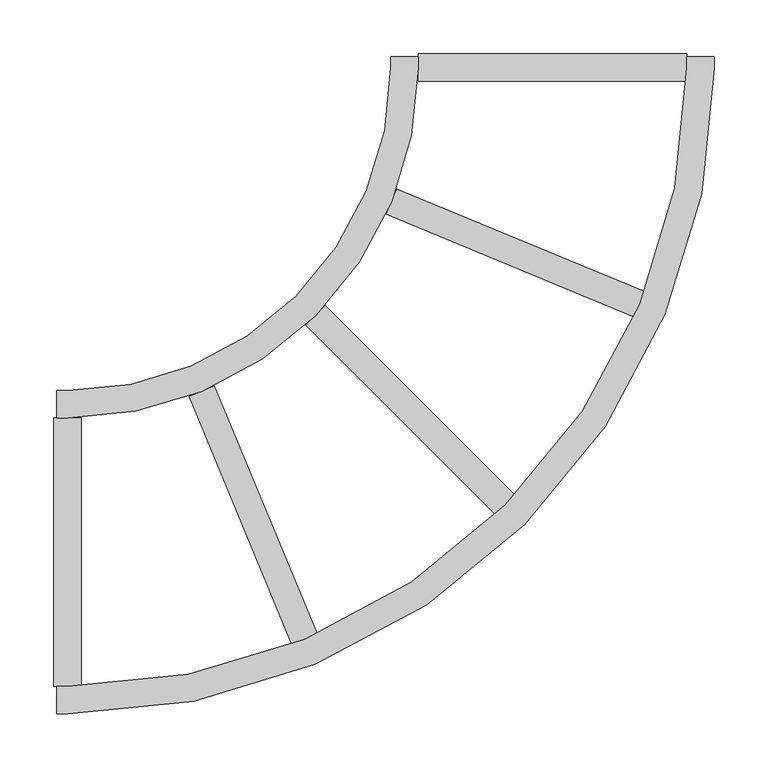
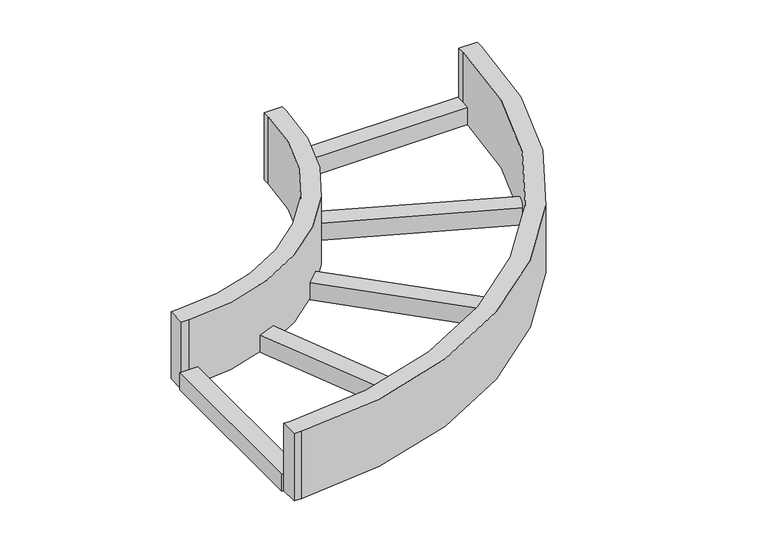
"""IFC4 building model written with IfcOpenShell, lengths in millimetres: cable carrier fitting geometry, ADSK_Поворот горизонтальный_Лестничный лоток : Радиус 300 мм."""

import ifcopenshell
import ifcopenshell.guid

model = None  # the IFC model being written
_history = None  # IfcOwnerHistory: only IFC2X3 demands one
_inside = {}  # id of a spatial element -> (the spatial element, [elements in it])
_under = {}  # id of a project, library or spatial element -> (it, [spatial elements below it])
_declared = {}  # id of a project -> (the project, [libraries it declares])
_typed = {}  # id of a type object -> (the type object, [elements of that type])
_made_of = {}  # id of a material, layer set ... -> (it, [elements and type objects made of it])


def new_model(schema):
    """Start an empty IFC model of exactly this schema.

    Asked for "IFC4X3", IfcOpenShell would pick the latest addendum, in which some entities
    have other attributes; the version numbers below select the first issue.
    IFC2X3 requires an IfcOwnerHistory on every rooted entity: one is made here for all.
    """
    global model, _history
    if schema == "IFC4X3":
        model = ifcopenshell.file(schema_version=(4, 3, 0, 0))
    else:
        model = ifcopenshell.file(schema=schema)
    _inside.clear()
    _under.clear()
    _declared.clear()
    _typed.clear()
    _made_of.clear()
    _history = None
    if model.schema == "IFC2X3":
        org = make("IfcOrganization", Name="unknown")
        user = make(
            "IfcPersonAndOrganization",
            ThePerson=make("IfcPerson", FamilyName="unknown"),
            TheOrganization=org,
        )
        app = make(
            "IfcApplication",
            ApplicationDeveloper=org,
            Version="unknown",
            ApplicationFullName="unknown",
            ApplicationIdentifier="unknown",
        )
        _history = make(
            "IfcOwnerHistory",
            OwningUser=user,
            OwningApplication=app,
            ChangeAction="ADDED",
            CreationDate=0,
        )
    return model


def make(cls, **values):
    """One entity of the class cls with the attributes given. An attribute that is None is left unset."""
    return model.create_entity(
        cls, **{name: value for name, value in values.items() if value is not None}
    )


def rooted(cls, **values):
    """An entity with a GlobalId (a new one), such as an element, a storey or a relation."""
    return make(cls, GlobalId=ifcopenshell.guid.new(), OwnerHistory=_history, **values)


def si_unit(unit_type, name, prefix=None):
    """IfcSIUnit, for example si_unit("LENGTHUNIT", "METRE", prefix="MILLI")."""
    return make("IfcSIUnit", UnitType=unit_type, Prefix=prefix, Name=name)


def assignment(units):
    """IfcUnitAssignment: the units of a project."""
    return None if units is None else make("IfcUnitAssignment", Units=units)


def point(xyz):
    """IfcCartesianPoint."""
    return None if xyz is None else make("IfcCartesianPoint", Coordinates=xyz)


def direction(xyz):
    """IfcDirection."""
    return None if xyz is None else make("IfcDirection", DirectionRatios=xyz)


def frame(location, z_axis=None, x_axis=None):
    """IfcAxis2Placement3D, a coordinate frame: its origin and axes. An axis left out is left unset."""
    return make(
        "IfcAxis2Placement3D",
        Location=point(location),
        Axis=direction(z_axis),
        RefDirection=direction(x_axis),
    )


def frame_2d(location, x_axis=None):
    """IfcAxis2Placement2D, a coordinate frame in the plane: its origin and x axis."""
    return make(
        "IfcAxis2Placement2D", Location=point(location), RefDirection=direction(x_axis)
    )


def origin():
    """The frame at (0, 0, 0) with its axes left unset."""
    return frame((0.0, 0.0, 0.0))


def place(relative_to, where):
    """IfcLocalPlacement: puts the frame where relative to a parent placement (None: the world)."""
    return make(
        "IfcLocalPlacement", PlacementRelTo=relative_to, RelativePlacement=where
    )


def context(
    kind, dimensions, precision=None, world=None, true_north=None, identifier=None
):
    """IfcGeometricRepresentationContext, for example the 3D "Model" context."""
    return make(
        "IfcGeometricRepresentationContext",
        ContextIdentifier=identifier,
        ContextType=kind,
        CoordinateSpaceDimension=dimensions,
        Precision=precision,
        WorldCoordinateSystem=world,
        TrueNorth=true_north,
    )


def project(units=None, contexts=None):
    """IfcProject with its units and contexts."""
    return rooted(
        "IfcProject",
        Name="project",
        RepresentationContexts=contexts,
        UnitsInContext=assignment(units),
    )


def spatial(cls, under=None, at=None, **own):
    """A site, building, storey or space (cls), placed at a placement, below another one or the project."""
    s = rooted(cls, ObjectPlacement=at, **own)
    if under is not None:
        _under.setdefault(under.id(), (under, []))[1].append(s)
    return s


def polyline(points):
    """IfcPolyline through the points."""
    return make("IfcPolyline", Points=[point(p) for p in points])


def circle_curve(where, radius):
    """IfcCircle in the frame where."""
    return make("IfcCircle", Position=where, Radius=radius)


def trimmed(basis, trim1, trim2, sense, master):
    """IfcTrimmedCurve: the piece of a basis curve between two trims."""
    return make(
        "IfcTrimmedCurve",
        BasisCurve=basis,
        Trim1=trim1,
        Trim2=trim2,
        SenseAgreement=sense,
        MasterRepresentation=master,
    )


def segment(curve, same_sense, transition):
    """IfcCompositeCurveSegment."""
    return make(
        "IfcCompositeCurveSegment",
        Transition=transition,
        SameSense=same_sense,
        ParentCurve=curve,
    )


def composite_curve(segments, self_intersect=None):
    """IfcCompositeCurve: segments joined end to end."""
    return make("IfcCompositeCurve", Segments=segments, SelfIntersect=self_intersect)


def outline(outer, holes=None, kind="AREA"):
    """IfcArbitraryClosedProfileDef: a profile drawn as a closed curve; with holes, ...WithVoids."""
    if holes is None:
        return make("IfcArbitraryClosedProfileDef", ProfileType=kind, OuterCurve=outer)
    return make(
        "IfcArbitraryProfileDefWithVoids",
        ProfileType=kind,
        OuterCurve=outer,
        InnerCurves=holes,
    )


def extrude(swept, where, along, depth):
    """IfcExtrudedAreaSolid: the profile swept, set in the frame where, extruded along a direction by depth."""
    return make(
        "IfcExtrudedAreaSolid",
        SweptArea=swept,
        Position=where,
        ExtrudedDirection=direction(along),
        Depth=depth,
    )


def shape(context_of_items, identifier, shape_type, items):
    """IfcShapeRepresentation: the items that make up one representation, for example the "Body"."""
    return make(
        "IfcShapeRepresentation",
        ContextOfItems=context_of_items,
        RepresentationIdentifier=identifier,
        RepresentationType=shape_type,
        Items=items,
    )


def source(mapping_origin, context_of_items, identifier, shape_type, items):
    """IfcRepresentationMap: a shape defined once, which mapped items show again and again."""
    return make(
        "IfcRepresentationMap",
        MappingOrigin=mapping_origin,
        MappedRepresentation=shape(context_of_items, identifier, shape_type, items),
    )


def transform(
    local_origin,
    x_axis=None,
    y_axis=None,
    z_axis=None,
    scale=None,
    scale2=None,
    scale3=None,
    uniform=True,
):
    """IfcCartesianTransformationOperator3D, or its non-uniform kind. x_axis, y_axis, z_axis: its Axis1, 2, 3."""
    if uniform:
        return make(
            "IfcCartesianTransformationOperator3D",
            Axis1=direction(x_axis),
            Axis2=direction(y_axis),
            LocalOrigin=point(local_origin),
            Scale=scale,
            Axis3=direction(z_axis),
        )
    return make(
        "IfcCartesianTransformationOperator3DnonUniform",
        Axis1=direction(x_axis),
        Axis2=direction(y_axis),
        LocalOrigin=point(local_origin),
        Scale=scale,
        Axis3=direction(z_axis),
        Scale2=scale2,
        Scale3=scale3,
    )


def mapped(mapping_source, mapping_target):
    """IfcMappedItem: shows the shape of a source again, moved by a transform."""
    return make(
        "IfcMappedItem", MappingSource=mapping_source, MappingTarget=mapping_target
    )


def made_of(thing, what):
    """Note that an element or type object is made of a material, layer set ...; save() writes the relation."""
    if what is not None:
        _made_of.setdefault(what.id(), (what, []))[1].append(thing)
    return thing


def element(
    cls,
    number,
    at=None,
    inside=None,
    cuts=None,
    type_object=None,
    material=None,
    context=None,
    identifier="Body",
    shape_type=None,
    held_by="IfcProductDefinitionShape",
    body=None,
    shapes=None,
    **own,
):
    """One element of the class cls, such as IfcWall. Its Tag is "e" and its number.

    at: its placement. inside: the storey or other place that contains it. cuts: it is an
    opening in that element (IfcRelVoidsElement). A single representation is given by context,
    identifier, shape_type and body (its items); several are given by shapes. held_by: the class
    of the entity that holds the representations. save() writes the other relations.
    """
    e = rooted(cls, Tag="e%d" % number, ObjectPlacement=at, **own)
    if body is not None:
        shapes = [shape(context, identifier, shape_type, body)]
    if shapes is not None:
        e.Representation = make(held_by, Representations=shapes)
    if inside is not None:
        _inside.setdefault(inside.id(), (inside, []))[1].append(e)
    if cuts is not None:
        rooted(
            "IfcRelVoidsElement", RelatingBuildingElement=cuts, RelatedOpeningElement=e
        )
    if type_object is not None:
        _typed.setdefault(type_object.id(), (type_object, []))[1].append(e)
    return made_of(e, material)


def aggregate(whole, parts):
    """IfcRelAggregates: a whole, such as a stair, and the parts it consists of."""
    return rooted("IfcRelAggregates", RelatingObject=whole, RelatedObjects=parts)


def save(model, path):
    """Write the relations noted so far, then the file.

    IfcRelAggregates (storeys below a building ...), IfcRelContainedInSpatialStructure (elements
    in a storey), IfcRelDefinesByType, IfcRelAssociatesMaterial and IfcRelDeclares: one each for
    every whole, place, type object, material and project.
    """
    for whole, parts in _under.values():
        aggregate(whole, parts)
    for where, things in _inside.values():
        rooted(
            "IfcRelContainedInSpatialStructure",
            RelatedElements=things,
            RelatingStructure=where,
        )
    for kind, things in _typed.values():
        rooted("IfcRelDefinesByType", RelatedObjects=things, RelatingType=kind)
    for what, things in _made_of.values():
        rooted("IfcRelAssociatesMaterial", RelatedObjects=things, RelatingMaterial=what)
    for by, libraries in _declared.values():
        rooted("IfcRelDeclares", RelatingContext=by, RelatedDefinitions=libraries)
    model.write(path)


def cable_carrier_fitting_0848be47(model_context):
    return source(origin(), model_context, "Body", "SweptSolid", [
        extrude(outline(polyline([(-154.2296797, 313.741541), (-144.5095205, 337.2080812), (85.721259, 241.8433698), (76.0010998, 218.3768297), (-154.2296797, 313.741541)])), frame((0.0, 0.0, -50.0), z_axis=(0.0, 0.0, 1.0), x_axis=(1.0, 0.0, 0.0)), (0.0, 0.0, 1.0), 25.4),
        extrude(outline(polyline([(-337.2080812, 144.5095205), (-313.741541, 154.2296797), (-218.3768297, -76.0010998), (-241.8433698, -85.721259), (-337.2080812, 144.5095205)])), frame((0.0, 0.0, -50.0), z_axis=(0.0, 0.0, 1.0), x_axis=(1.0, 0.0, 0.0)), (0.0, 0.0, 1.0), 25.4),
        extrude(outline(polyline([(-124.6, 437.3), (-124.6, 462.7), (124.6, 462.7), (124.6, 437.3), (-124.6, 437.3)])), frame((0.0, 0.0, -50.0), z_axis=(0.0, 0.0, 1.0), x_axis=(1.0, 0.0, 0.0)), (0.0, 0.0, 1.0), 25.4),
        extrude(outline(polyline([(-462.7, 124.6), (-437.3, 124.6), (-437.3, -124.6), (-462.7, -124.6), (-462.7, 124.6)])), frame((0.0, 0.0, -50.0), z_axis=(0.0, 0.0, 1.0), x_axis=(1.0, 0.0, 0.0)), (0.0, 0.0, 1.0), 25.4),
        extrude(outline(polyline([(-228.8877095, 210.9271973), (-210.9271973, 228.8877095), (-34.7161874, 52.6766996), (-52.6766996, 34.7161874), (-228.8877095, 210.9271973)])), frame((0.0, 0.0, -50.0), z_axis=(0.0, 0.0, 1.0), x_axis=(1.0, 0.0, 0.0)), (0.0, 0.0, 1.0), 25.4),
        extrude(outline(composite_curve([segment(polyline([(-460.0, -150.0), (-460.0, -124.6), (-450.0, -124.6)]), True, "CONTINUOUS"), segment(trimmed(circle_curve(frame_2d((-450.0, 450.0)), 574.6), [point((-450.0, -124.6))], [point((124.6, 450.0))], True, "CARTESIAN"), True, "CONTINUOUS"), segment(polyline([(124.6, 450.0), (124.6, 460.0), (150.0, 460.0), (150.0, 450.0)]), True, "CONTINUOUS"), segment(trimmed(circle_curve(frame_2d((-450.0, 450.0)), 600.0), [point((150.0, 450.0))], [point((-450.0, -150.0))], False, "CARTESIAN"), True, "CONTINUOUS"), segment(polyline([(-450.0, -150.0), (-460.0, -150.0)]), True, "CONTINUOUS")], self_intersect=False)), frame((0.0, 0.0, -50.0), z_axis=(0.0, 0.0, 1.0), x_axis=(1.0, 0.0, 0.0)), (0.0, 0.0, 1.0), 100.0),
        extrude(outline(composite_curve([segment(polyline([(-460.0, 124.6), (-460.0, 150.0), (-450.0, 150.0)]), True, "CONTINUOUS"), segment(trimmed(circle_curve(frame_2d((-450.0, 450.0)), 300.0), [point((-450.0, 150.0))], [point((-150.0, 450.0))], True, "CARTESIAN"), True, "CONTINUOUS"), segment(polyline([(-150.0, 450.0), (-150.0, 460.0), (-124.6, 460.0), (-124.6, 450.0)]), True, "CONTINUOUS"), segment(trimmed(circle_curve(frame_2d((-450.0, 450.0)), 325.4), [point((-124.6, 450.0))], [point((-450.0, 124.6))], False, "CARTESIAN"), True, "CONTINUOUS"), segment(polyline([(-450.0, 124.6), (-460.0, 124.6)]), True, "CONTINUOUS")], self_intersect=False)), frame((0.0, 0.0, -50.0), z_axis=(0.0, 0.0, 1.0), x_axis=(1.0, 0.0, 0.0)), (0.0, 0.0, 1.0), 100.0),
    ])


if __name__ == "__main__":
    model = new_model("IFC4")
    model_context = context("Model", 3, world=origin())
    ifc_project = project(units=[si_unit("LENGTHUNIT", "METRE", prefix="MILLI")], contexts=[model_context])
    site = spatial("IfcSite", under=ifc_project)
    building = spatial("IfcBuilding", under=site)
    placement = place(None, origin())
    cable_carrier_fitting_shape = cable_carrier_fitting_0848be47(model_context)
    element("IfcCableCarrierFitting", 1, ObjectType="ADSK_Поворот горизонтальный_Лестничный лоток : Радиус 300 мм", at=placement, inside=building, context=model_context, shape_type="MappedRepresentation", body=[
        mapped(cable_carrier_fitting_shape, transform((0.0, 0.0, 0.0), x_axis=(1.0, 0.0, 0.0), y_axis=(0.0, 1.0, 0.0), z_axis=(0.0, 0.0, 1.0))),
    ])
    save(model, "model.ifc")
